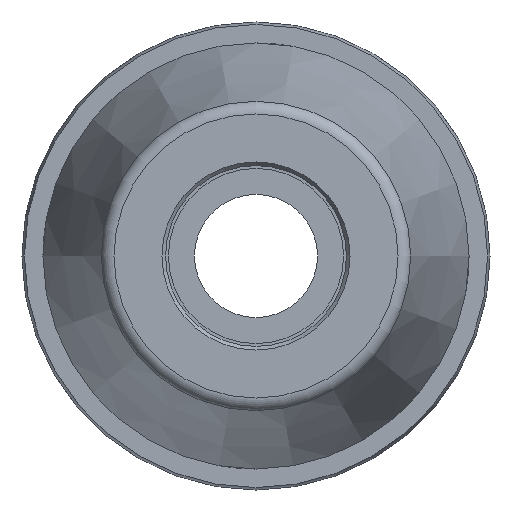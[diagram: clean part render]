
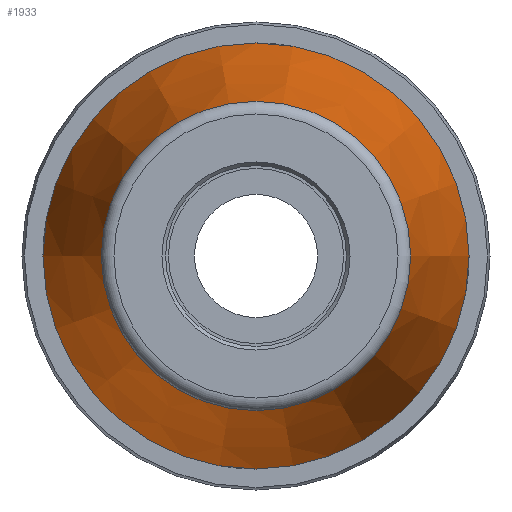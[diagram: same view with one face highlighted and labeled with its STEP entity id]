
A CAD part, left-side view. The second image highlights one B-rep face of the part: STEP entity #1933.
In plain terms, the highlighted conical face has half-angle 13 degrees and reference radius 22.488 mm.
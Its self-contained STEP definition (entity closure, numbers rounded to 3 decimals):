
#144=CONICAL_SURFACE('',#2166,22.488,0.227);
#222=LINE('',#3949,#331);
#331=VECTOR('',#2685,22.488);
#474=FACE_OUTER_BOUND('',#586,.T.);
#586=EDGE_LOOP('',(#1674,#1675,#1676,#1677,#1678,#1679,#1680));
#720=CIRCLE('',#2162,19.042);
#721=CIRCLE('',#2163,19.042);
#723=CIRCLE('',#2165,19.042);
#724=CIRCLE('',#2167,26.22);
#725=CIRCLE('',#2168,26.22);
#909=VERTEX_POINT('',#3937);
#910=VERTEX_POINT('',#3938);
#911=VERTEX_POINT('',#3940);
#912=VERTEX_POINT('',#3945);
#913=VERTEX_POINT('',#3946);
#1179=EDGE_CURVE('',#909,#910,#720,.T.);
#1180=EDGE_CURVE('',#910,#911,#721,.T.);
#1182=EDGE_CURVE('',#911,#909,#723,.T.);
#1183=EDGE_CURVE('',#912,#913,#724,.T.);
#1184=EDGE_CURVE('',#913,#912,#725,.T.);
#1185=EDGE_CURVE('',#913,#910,#222,.T.);
#1674=ORIENTED_EDGE('',*,*,#1183,.F.);
#1675=ORIENTED_EDGE('',*,*,#1184,.F.);
#1676=ORIENTED_EDGE('',*,*,#1185,.T.);
#1677=ORIENTED_EDGE('',*,*,#1179,.F.);
#1678=ORIENTED_EDGE('',*,*,#1182,.F.);
#1679=ORIENTED_EDGE('',*,*,#1180,.F.);
#1680=ORIENTED_EDGE('',*,*,#1185,.F.);
#1933=ADVANCED_FACE('',(#474),#144,.T.);
#2162=AXIS2_PLACEMENT_3D('',#3939,#2671,#2672);
#2163=AXIS2_PLACEMENT_3D('',#3941,#2673,#2674);
#2165=AXIS2_PLACEMENT_3D('',#3943,#2677,#2678);
#2166=AXIS2_PLACEMENT_3D('',#3944,#2679,#2680);
#2167=AXIS2_PLACEMENT_3D('',#3947,#2681,#2682);
#2168=AXIS2_PLACEMENT_3D('',#3948,#2683,#2684);
#2671=DIRECTION('center_axis',(-1.,0.,0.));
#2672=DIRECTION('ref_axis',(0.,-1.,0.));
#2673=DIRECTION('center_axis',(-1.,0.,0.));
#2674=DIRECTION('ref_axis',(0.,-1.,0.));
#2677=DIRECTION('center_axis',(-1.,0.,0.));
#2678=DIRECTION('ref_axis',(0.,-1.,0.));
#2679=DIRECTION('center_axis',(1.,0.,0.));
#2680=DIRECTION('ref_axis',(0.,1.,0.));
#2681=DIRECTION('center_axis',(1.,0.,0.));
#2682=DIRECTION('ref_axis',(0.,0.,-1.));
#2683=DIRECTION('center_axis',(1.,0.,0.));
#2684=DIRECTION('ref_axis',(0.,0.,-1.));
#2685=DIRECTION('',(-0.974,0.225,0.));
#3937=CARTESIAN_POINT('',(-67.76,19.042,0.));
#3938=CARTESIAN_POINT('',(-67.76,-19.042,0.));
#3939=CARTESIAN_POINT('Origin',(-67.76,0.,0.));
#3940=CARTESIAN_POINT('',(-67.76,0.,19.042));
#3941=CARTESIAN_POINT('Origin',(-67.76,0.,0.));
#3943=CARTESIAN_POINT('Origin',(-67.76,0.,0.));
#3944=CARTESIAN_POINT('Origin',(-52.833,0.,0.));
#3945=CARTESIAN_POINT('',(-36.667,26.22,0.));
#3946=CARTESIAN_POINT('',(-36.667,-26.22,0.));
#3947=CARTESIAN_POINT('Origin',(-36.667,0.,0.));
#3948=CARTESIAN_POINT('Origin',(-36.667,0.,0.));
#3949=CARTESIAN_POINT('',(-52.833,-22.488,0.));
